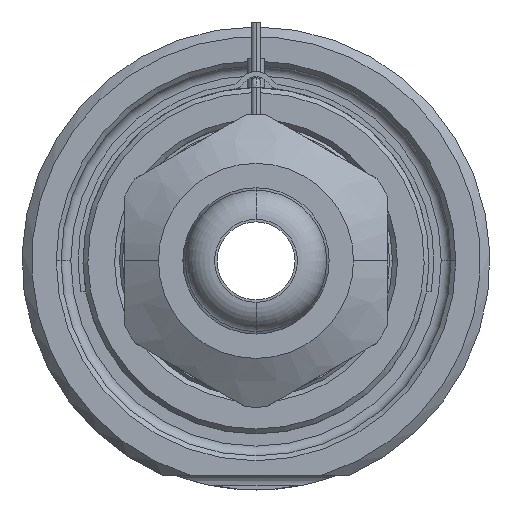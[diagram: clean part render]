
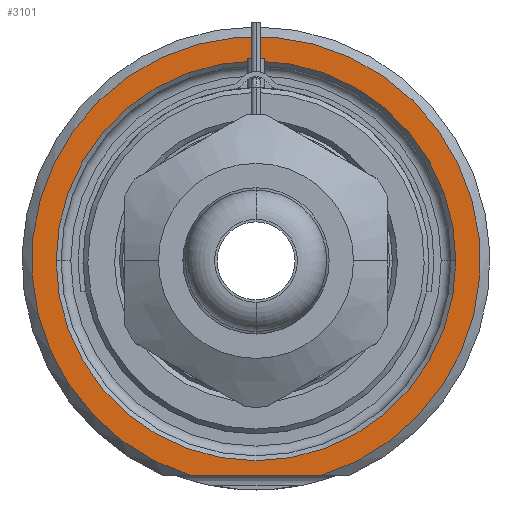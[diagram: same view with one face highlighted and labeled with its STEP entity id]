
A CAD part, front view. The second image highlights one B-rep face of the part: STEP entity #3101.
In plain terms, the highlighted planar face has unit normal (0, -1, 0).
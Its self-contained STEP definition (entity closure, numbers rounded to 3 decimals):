
#1=DIRECTION('',(1.,0.,0.));
#2=VECTOR('',#1,13.416);
#3=CARTESIAN_POINT('',(-6.708,0.,-22.));
#4=LINE('',#3,#2);
#5=CARTESIAN_POINT('',(0.,0.,0.));
#6=DIRECTION('',(0.,1.,0.));
#7=DIRECTION('',(-1.,0.,0.));
#8=AXIS2_PLACEMENT_3D('',#5,#6,#7);
#10=CARTESIAN_POINT('',(0.,0.,0.));
#11=DIRECTION('',(0.,1.,0.));
#12=DIRECTION('',(1.,0.,0.));
#13=AXIS2_PLACEMENT_3D('',#10,#11,#12);
#121=CARTESIAN_POINT('',(0.,0.,0.));
#122=DIRECTION('',(0.,-1.,0.));
#123=DIRECTION('',(0.292,0.,-0.957));
#124=AXIS2_PLACEMENT_3D('',#121,#122,#123);
#2572=CARTESIAN_POINT('',(-20.5,0.,0.));
#2573=CARTESIAN_POINT('',(20.5,0.,0.));
#2574=VERTEX_POINT('',#2572);
#2575=VERTEX_POINT('',#2573);
#2612=CARTESIAN_POINT('',(-6.708,0.,-22.));
#2613=CARTESIAN_POINT('',(6.708,0.,-22.));
#2614=VERTEX_POINT('',#2612);
#2615=VERTEX_POINT('',#2613);
#3084=CARTESIAN_POINT('',(0.,0.,0.));
#3085=DIRECTION('',(0.,-1.,0.));
#3086=DIRECTION('',(1.,0.,0.));
#3087=AXIS2_PLACEMENT_3D('',#3084,#3085,#3086);
#3088=PLANE('',#3087);
#3090=ORIENTED_EDGE('',*,*,#3089,.F.);
#3092=ORIENTED_EDGE('',*,*,#3091,.F.);
#3093=EDGE_LOOP('',(#3090,#3092));
#3094=FACE_OUTER_BOUND('',#3093,.F.);
#3096=ORIENTED_EDGE('',*,*,#3095,.F.);
#3098=ORIENTED_EDGE('',*,*,#3097,.F.);
#3099=EDGE_LOOP('',(#3096,#3098));
#3100=FACE_BOUND('',#3099,.F.);
#3101=ADVANCED_FACE('',(#3094,#3100),#3088,.T.);
#9=CIRCLE('',#8,20.5);
#14=CIRCLE('',#13,20.5);
#125=CIRCLE('',#124,23.);
#3089=EDGE_CURVE('',#2614,#2615,#4,.T.);
#3091=EDGE_CURVE('',#2615,#2614,#125,.T.);
#3095=EDGE_CURVE('',#2574,#2575,#9,.T.);
#3097=EDGE_CURVE('',#2575,#2574,#14,.T.);
